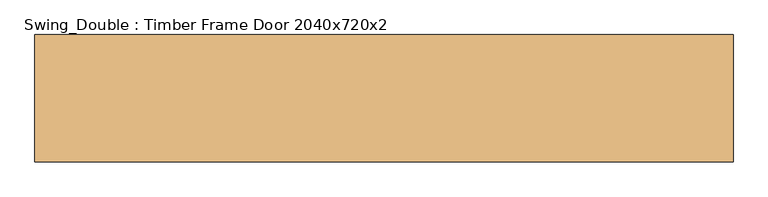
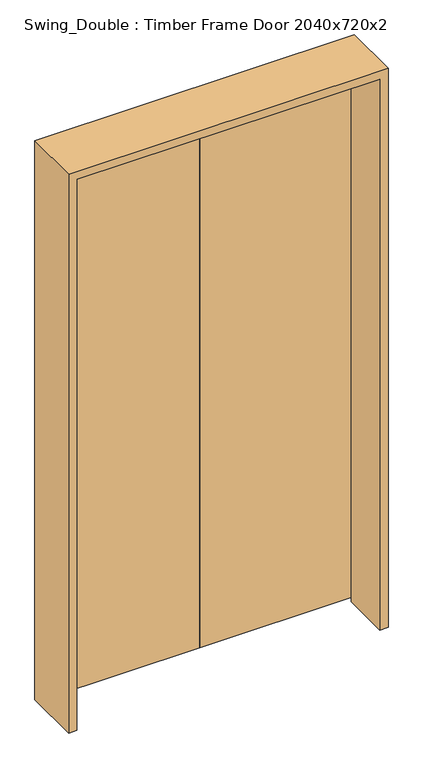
"""IFC4 building model written with IfcOpenShell, lengths in millimetres: door geometry, Swing_Double : Timber Frame Door 2040x720x2."""

import ifcopenshell
import ifcopenshell.guid

model = None  # the IFC model being written
_history = None  # IfcOwnerHistory: only IFC2X3 demands one
_inside = {}  # id of a spatial element -> (the spatial element, [elements in it])
_under = {}  # id of a project, library or spatial element -> (it, [spatial elements below it])
_declared = {}  # id of a project -> (the project, [libraries it declares])
_typed = {}  # id of a type object -> (the type object, [elements of that type])
_made_of = {}  # id of a material, layer set ... -> (it, [elements and type objects made of it])


def new_model(schema):
    """Start an empty IFC model of exactly this schema.

    Asked for "IFC4X3", IfcOpenShell would pick the latest addendum, in which some entities
    have other attributes; the version numbers below select the first issue.
    IFC2X3 requires an IfcOwnerHistory on every rooted entity: one is made here for all.
    """
    global model, _history
    if schema == "IFC4X3":
        model = ifcopenshell.file(schema_version=(4, 3, 0, 0))
    else:
        model = ifcopenshell.file(schema=schema)
    _inside.clear()
    _under.clear()
    _declared.clear()
    _typed.clear()
    _made_of.clear()
    _history = None
    if model.schema == "IFC2X3":
        org = make("IfcOrganization", Name="unknown")
        user = make(
            "IfcPersonAndOrganization",
            ThePerson=make("IfcPerson", FamilyName="unknown"),
            TheOrganization=org,
        )
        app = make(
            "IfcApplication",
            ApplicationDeveloper=org,
            Version="unknown",
            ApplicationFullName="unknown",
            ApplicationIdentifier="unknown",
        )
        _history = make(
            "IfcOwnerHistory",
            OwningUser=user,
            OwningApplication=app,
            ChangeAction="ADDED",
            CreationDate=0,
        )
    return model


def make(cls, **values):
    """One entity of the class cls with the attributes given. An attribute that is None is left unset."""
    return model.create_entity(
        cls, **{name: value for name, value in values.items() if value is not None}
    )


def rooted(cls, **values):
    """An entity with a GlobalId (a new one), such as an element, a storey or a relation."""
    return make(cls, GlobalId=ifcopenshell.guid.new(), OwnerHistory=_history, **values)


def si_unit(unit_type, name, prefix=None):
    """IfcSIUnit, for example si_unit("LENGTHUNIT", "METRE", prefix="MILLI")."""
    return make("IfcSIUnit", UnitType=unit_type, Prefix=prefix, Name=name)


def assignment(units):
    """IfcUnitAssignment: the units of a project."""
    return None if units is None else make("IfcUnitAssignment", Units=units)


def point(xyz):
    """IfcCartesianPoint."""
    return None if xyz is None else make("IfcCartesianPoint", Coordinates=xyz)


def direction(xyz):
    """IfcDirection."""
    return None if xyz is None else make("IfcDirection", DirectionRatios=xyz)


def frame(location, z_axis=None, x_axis=None):
    """IfcAxis2Placement3D, a coordinate frame: its origin and axes. An axis left out is left unset."""
    return make(
        "IfcAxis2Placement3D",
        Location=point(location),
        Axis=direction(z_axis),
        RefDirection=direction(x_axis),
    )


def origin():
    """The frame at (0, 0, 0) with its axes left unset."""
    return frame((0.0, 0.0, 0.0))


def place(relative_to, where):
    """IfcLocalPlacement: puts the frame where relative to a parent placement (None: the world)."""
    return make(
        "IfcLocalPlacement", PlacementRelTo=relative_to, RelativePlacement=where
    )


def context(
    kind, dimensions, precision=None, world=None, true_north=None, identifier=None
):
    """IfcGeometricRepresentationContext, for example the 3D "Model" context."""
    return make(
        "IfcGeometricRepresentationContext",
        ContextIdentifier=identifier,
        ContextType=kind,
        CoordinateSpaceDimension=dimensions,
        Precision=precision,
        WorldCoordinateSystem=world,
        TrueNorth=true_north,
    )


def project(units=None, contexts=None):
    """IfcProject with its units and contexts."""
    return rooted(
        "IfcProject",
        Name="project",
        RepresentationContexts=contexts,
        UnitsInContext=assignment(units),
    )


def spatial(cls, under=None, at=None, **own):
    """A site, building, storey or space (cls), placed at a placement, below another one or the project."""
    s = rooted(cls, ObjectPlacement=at, **own)
    if under is not None:
        _under.setdefault(under.id(), (under, []))[1].append(s)
    return s


def polyline(points):
    """IfcPolyline through the points."""
    return make("IfcPolyline", Points=[point(p) for p in points])


def outline(outer, holes=None, kind="AREA"):
    """IfcArbitraryClosedProfileDef: a profile drawn as a closed curve; with holes, ...WithVoids."""
    if holes is None:
        return make("IfcArbitraryClosedProfileDef", ProfileType=kind, OuterCurve=outer)
    return make(
        "IfcArbitraryProfileDefWithVoids",
        ProfileType=kind,
        OuterCurve=outer,
        InnerCurves=holes,
    )


def extrude(swept, where, along, depth):
    """IfcExtrudedAreaSolid: the profile swept, set in the frame where, extruded along a direction by depth."""
    return make(
        "IfcExtrudedAreaSolid",
        SweptArea=swept,
        Position=where,
        ExtrudedDirection=direction(along),
        Depth=depth,
    )


def faces_of(points, faces, orient=None, outer=None):
    """IfcFace entities. A face is a list of loops; a loop is a list of indices into points, from 0.

    orient and outer hold one flag for each loop. By default every Orientation is true, the
    first loop of a face is its IfcFaceOuterBound and the others are IfcFaceBound.
    """
    made = []
    for i, loops in enumerate(faces):
        bounds = []
        for j, loop in enumerate(loops):
            is_outer = j == 0 if outer is None else outer[i][j]
            bounds.append(
                make(
                    "IfcFaceOuterBound" if is_outer else "IfcFaceBound",
                    Bound=make("IfcPolyLoop", Polygon=[points[k] for k in loop]),
                    Orientation=True if orient is None else orient[i][j],
                )
            )
        made.append(make("IfcFace", Bounds=bounds))
    return made


def faceted_brep(points, faces, orient=None, outer=None, voids=None):
    """IfcFacetedBrep: a solid bounded by flat faces; with voids (closed shells), ...WithVoids."""
    shared = [point(p) for p in points]
    hull = make("IfcClosedShell", CfsFaces=faces_of(shared, faces, orient, outer))
    if voids is None:
        return make("IfcFacetedBrep", Outer=hull)
    return make(
        "IfcFacetedBrepWithVoids",
        Outer=hull,
        Voids=[
            make(cls, CfsFaces=faces_of(shared, fs, o, b)) for cls, fs, o, b in voids
        ],
    )


def shape(context_of_items, identifier, shape_type, items):
    """IfcShapeRepresentation: the items that make up one representation, for example the "Body"."""
    return make(
        "IfcShapeRepresentation",
        ContextOfItems=context_of_items,
        RepresentationIdentifier=identifier,
        RepresentationType=shape_type,
        Items=items,
    )


def source(mapping_origin, context_of_items, identifier, shape_type, items):
    """IfcRepresentationMap: a shape defined once, which mapped items show again and again."""
    return make(
        "IfcRepresentationMap",
        MappingOrigin=mapping_origin,
        MappedRepresentation=shape(context_of_items, identifier, shape_type, items),
    )


def transform(
    local_origin,
    x_axis=None,
    y_axis=None,
    z_axis=None,
    scale=None,
    scale2=None,
    scale3=None,
    uniform=True,
):
    """IfcCartesianTransformationOperator3D, or its non-uniform kind. x_axis, y_axis, z_axis: its Axis1, 2, 3."""
    if uniform:
        return make(
            "IfcCartesianTransformationOperator3D",
            Axis1=direction(x_axis),
            Axis2=direction(y_axis),
            LocalOrigin=point(local_origin),
            Scale=scale,
            Axis3=direction(z_axis),
        )
    return make(
        "IfcCartesianTransformationOperator3DnonUniform",
        Axis1=direction(x_axis),
        Axis2=direction(y_axis),
        LocalOrigin=point(local_origin),
        Scale=scale,
        Axis3=direction(z_axis),
        Scale2=scale2,
        Scale3=scale3,
    )


def mapped(mapping_source, mapping_target):
    """IfcMappedItem: shows the shape of a source again, moved by a transform."""
    return make(
        "IfcMappedItem", MappingSource=mapping_source, MappingTarget=mapping_target
    )


def made_of(thing, what):
    """Note that an element or type object is made of a material, layer set ...; save() writes the relation."""
    if what is not None:
        _made_of.setdefault(what.id(), (what, []))[1].append(thing)
    return thing


def element(
    cls,
    number,
    at=None,
    inside=None,
    cuts=None,
    type_object=None,
    material=None,
    context=None,
    identifier="Body",
    shape_type=None,
    held_by="IfcProductDefinitionShape",
    body=None,
    shapes=None,
    **own,
):
    """One element of the class cls, such as IfcWall. Its Tag is "e" and its number.

    at: its placement. inside: the storey or other place that contains it. cuts: it is an
    opening in that element (IfcRelVoidsElement). A single representation is given by context,
    identifier, shape_type and body (its items); several are given by shapes. held_by: the class
    of the entity that holds the representations. save() writes the other relations.
    """
    e = rooted(cls, Tag="e%d" % number, ObjectPlacement=at, **own)
    if body is not None:
        shapes = [shape(context, identifier, shape_type, body)]
    if shapes is not None:
        e.Representation = make(held_by, Representations=shapes)
    if inside is not None:
        _inside.setdefault(inside.id(), (inside, []))[1].append(e)
    if cuts is not None:
        rooted(
            "IfcRelVoidsElement", RelatingBuildingElement=cuts, RelatedOpeningElement=e
        )
    if type_object is not None:
        _typed.setdefault(type_object.id(), (type_object, []))[1].append(e)
    return made_of(e, material)


def aggregate(whole, parts):
    """IfcRelAggregates: a whole, such as a stair, and the parts it consists of."""
    return rooted("IfcRelAggregates", RelatingObject=whole, RelatedObjects=parts)


def save(model, path):
    """Write the relations noted so far, then the file.

    IfcRelAggregates (storeys below a building ...), IfcRelContainedInSpatialStructure (elements
    in a storey), IfcRelDefinesByType, IfcRelAssociatesMaterial and IfcRelDeclares: one each for
    every whole, place, type object, material and project.
    """
    for whole, parts in _under.values():
        aggregate(whole, parts)
    for where, things in _inside.values():
        rooted(
            "IfcRelContainedInSpatialStructure",
            RelatedElements=things,
            RelatingStructure=where,
        )
    for kind, things in _typed.values():
        rooted("IfcRelDefinesByType", RelatedObjects=things, RelatingType=kind)
    for what, things in _made_of.values():
        rooted("IfcRelAssociatesMaterial", RelatedObjects=things, RelatingMaterial=what)
    for by, libraries in _declared.values():
        rooted("IfcRelDeclares", RelatingContext=by, RelatedDefinitions=libraries)
    model.write(path)


def swing_double_timber_frame_door_2040x720x2_a5019e4b(model_context):
    return source(origin(), model_context, "Body", "SolidModel", [
        extrude(outline(polyline([(-211.5, 135.0), (508.5, 135.0), (508.5, 95.0), (-211.5, 95.0), (-211.5, 135.0)])), frame((0.0, 0.0, 20.0), z_axis=(0.0, 0.0, 1.0), x_axis=(1.0, 0.0, 0.0)), (0.0, 0.0, 1.0), 2700.0),
        extrude(outline(polyline([(-211.5, 135.0), (-211.5, 95.0), (-931.5, 95.0), (-931.5, 135.0), (-211.5, 135.0)])), frame((0.0, 0.0, 20.0), z_axis=(0.0, 0.0, 1.0), x_axis=(1.0, 0.0, 0.0)), (0.0, 0.0, 1.0), 2700.0),
        faceted_brep([(529.5, -135.0, 0.0), (490.5, -135.0, 0.0), (490.5, 93.0, 0.0), (510.5, 93.0, 0.0), (510.5, 135.0, 0.0), (529.5, 135.0, 0.0), (529.5, -135.0, 2741.0), (-952.5, -135.0, 2741.0), (-952.5, -135.0, 0.0), (-913.5, -135.0, 0.0), (-913.5, -135.0, 2702.0), (490.5, -135.0, 2702.0), (490.5, 93.0, 2702.0), (-913.5, 93.0, 2702.0), (-913.5, 93.0, 0.0), (-933.5, 93.0, 0.0), (-933.5, 93.0, 2722.0), (510.5, 93.0, 2722.0), (510.5, 135.0, 2722.0), (-933.5, 135.0, 2722.0), (-933.5, 135.0, 0.0), (-952.5, 135.0, 0.0), (-952.5, 135.0, 2741.0), (529.5, 135.0, 2741.0)], [[[0, 1, 2, 3, 4, 5]], [[1, 0, 6, 7, 8, 9, 10, 11]], [[2, 1, 11, 12]], [[3, 2, 12, 13, 14, 15, 16, 17]], [[4, 3, 17, 18]], [[5, 4, 18, 19, 20, 21, 22, 23]], [[0, 5, 23, 6]], [[19, 16, 15, 20]], [[8, 21, 20, 15, 14, 9]], [[7, 22, 21, 8]], [[13, 10, 9, 14]], [[6, 23, 22, 7]], [[18, 17, 16, 19]], [[12, 11, 10, 13]]]),
    ])


if __name__ == "__main__":
    model = new_model("IFC4")
    model_context = context("Model", 3, world=origin())
    ifc_project = project(units=[si_unit("LENGTHUNIT", "METRE", prefix="MILLI")], contexts=[model_context])
    site = spatial("IfcSite", under=ifc_project)
    building = spatial("IfcBuilding", under=site)
    placement = place(None, origin())
    swing_double_timber_frame_door_2040x720x2_shape = swing_double_timber_frame_door_2040x720x2_a5019e4b(model_context)
    element("IfcDoor", 1, ObjectType="Swing_Double : Timber Frame Door 2040x720x2", at=placement, inside=building, context=model_context, shape_type="MappedRepresentation", body=[
        mapped(swing_double_timber_frame_door_2040x720x2_shape, transform((0.0, 0.0, 0.0), x_axis=(1.0, 0.0, 0.0), y_axis=(0.0, 1.0, 0.0), z_axis=(0.0, 0.0, 1.0))),
    ])
    save(model, "model.ifc")
